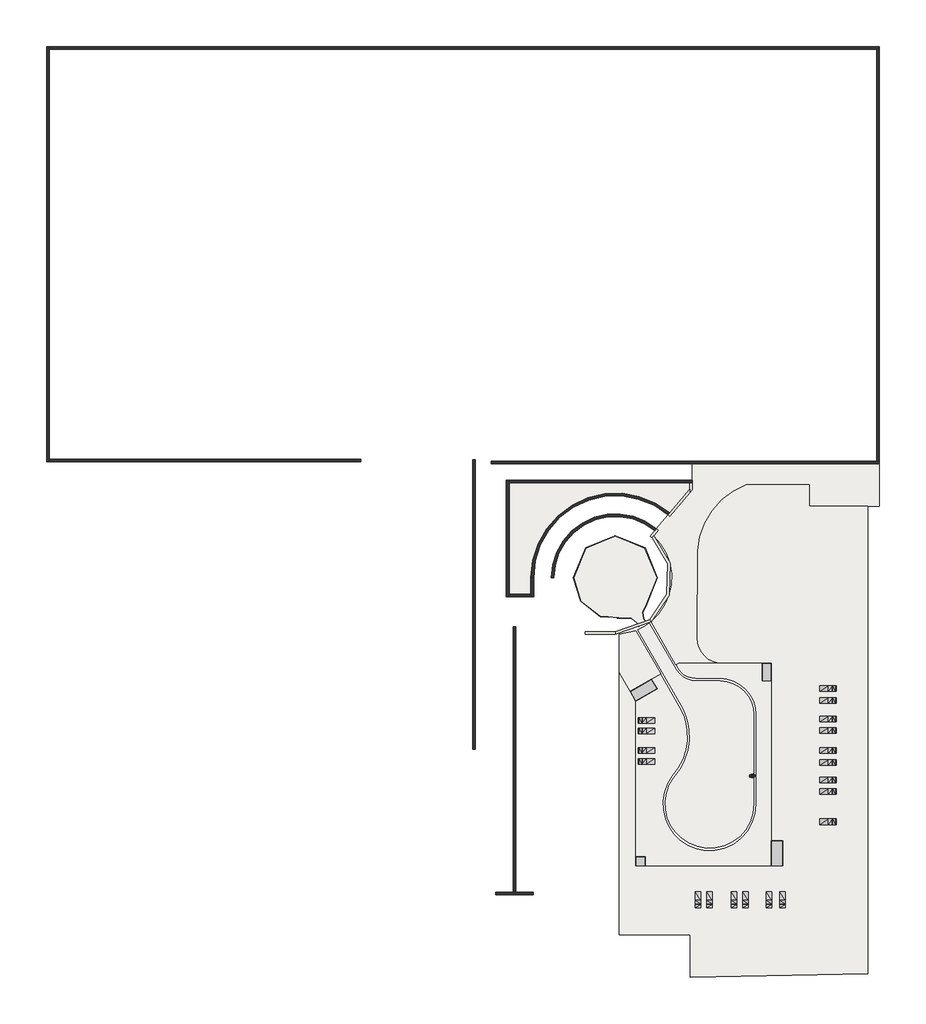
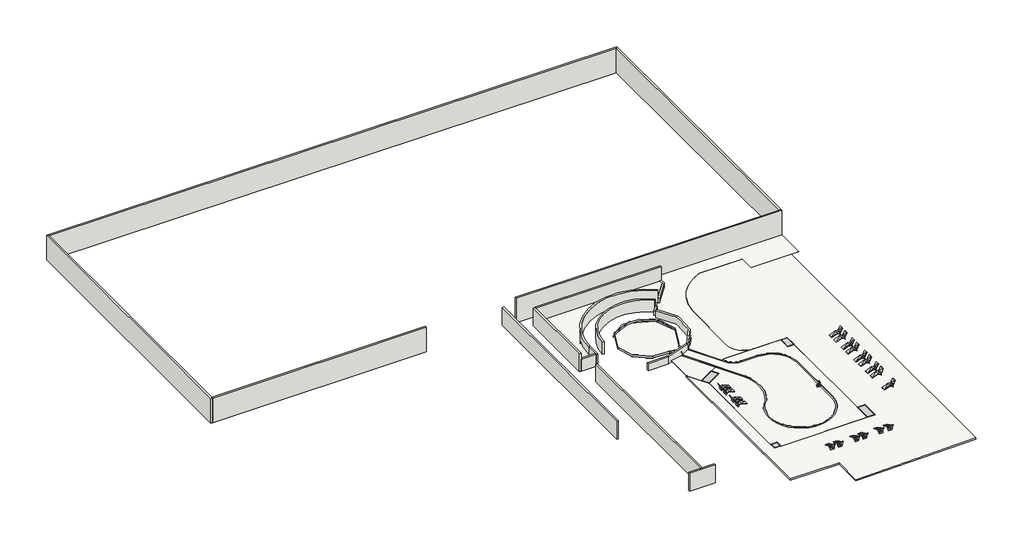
# One storey, incomplete: 36 walls, 20 geographic elements, 8 slabs, 4 proxies.
"""IFC4 building model written with IfcOpenShell, lengths in millimetres."""

from ifc_helpers import new_model, si_unit, point, frame, frame_2d, origin, place, context, project, spatial, polyline, circle_curve, trimmed, segment, composite_curve, outline, extrude, faceted_brep, transform, mapped, element, save
from ifc_brep_helpers import plane_surface, cylinder_surface, revolved_surface, advanced_brep
from components import generic_models_048bb886, generic_models_6c24c604, generic_models_903727d3, generic_models_c83b035a, geographic_element_292c5166, geographic_element_5d30c309

model = new_model("IFC4")

# Units and contexts
model_context = context("Model", 3, world=origin())
ifc_project = project(units=[si_unit("LENGTHUNIT", "METRE", prefix="MILLI")], contexts=[model_context])

# Site, building, storey
site = spatial("IfcSite", under=ifc_project)
building = spatial("IfcBuilding", under=site)
storey = spatial("IfcBuildingStorey", under=building, Name="8_NPlaya PTo-Fondo PIn -2.80", Elevation=-2800.0)

# Proxies
placement = place(None, origin())
generic_models_shape = generic_models_048bb886(model_context)
element("IfcBuildingElementProxy", 1, Name="PLATO DE DUCHA : Plato de Ducha 135x300 cm", ObjectType="PLATO DE DUCHA : Plato de Ducha 135x300 cm", at=placement, inside=storey, context=model_context, shape_type="MappedRepresentation", body=[
    mapped(generic_models_shape, transform((43596.7250348, -31456.534252, -2800.0), x_axis=(0.0, 1.0, 0.0), y_axis=(-1.0, 0.0, 0.0), z_axis=(0.0, 0.0, 1.0))),
])
generic_models_2_shape = generic_models_6c24c604(model_context)
element("IfcBuildingElementProxy", 2, Name="PLATO DE DUCHA : Plato de Ducha 110x110 cm", ObjectType="PLATO DE DUCHA : Plato de Ducha 110x110 cm", at=placement, inside=storey, context=model_context, shape_type="MappedRepresentation", body=[
    mapped(generic_models_2_shape, transform((27271.7250341, -32406.534252, -2800.0), x_axis=(1.0, 0.0, 0.0), y_axis=(0.0, 1.0, 0.0), z_axis=(0.0, 0.0, 1.0))),
])
generic_models_3_shape = generic_models_903727d3(model_context)
element("IfcBuildingElementProxy", 3, Name="PLATO DE DUCHA : Plato de Ducha 135x295 cm", ObjectType="PLATO DE DUCHA : Plato de Ducha 135x295 cm", at=placement, inside=storey, context=model_context, shape_type="MappedRepresentation", body=[
    mapped(generic_models_3_shape, transform((27651.3033222, -11948.4354948, -2800.0), x_axis=(0.8665392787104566, 0.4991088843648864, 0.0), y_axis=(-0.4991088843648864, 0.8665392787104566, 0.0), z_axis=(0.0, 0.0, 1.0))),
])
generic_models_4_shape = generic_models_c83b035a(model_context)
element("IfcBuildingElementProxy", 4, Name="PLATO DE DUCHA : Plato de Ducha 110x210 cm", ObjectType="PLATO DE DUCHA : Plato de Ducha 110x210 cm", at=placement, inside=storey, context=model_context, shape_type="MappedRepresentation", body=[
    mapped(generic_models_4_shape, transform((42371.7250348, -9806.5342519, -2800.0), x_axis=(0.0, 1.0, 0.0), y_axis=(-1.0, 0.0, 0.0), z_axis=(0.0, 0.0, 1.0))),
])

# Geographic elements
geographic_element_shape = geographic_element_292c5166(model_context)
element("IfcGeographicElement", 5, ObjectType="Enscape AssetDefinition - Tumbona 17 : Enscape AssetDefinition - Tumbona 17", at=placement, inside=storey, context=model_context, shape_type="MappedRepresentation", body=[
    mapped(geographic_element_shape, transform((28042.5568567, -15574.9374647, -2800.0), x_axis=(0.0, 1.0, 0.0), y_axis=(-1.0, 0.0, 0.0), z_axis=(0.0, 0.0, 1.0))),
])
element("IfcGeographicElement", 6, ObjectType="Enscape AssetDefinition - Tumbona 17 : Enscape AssetDefinition - Tumbona 17", at=placement, inside=storey, context=model_context, shape_type="MappedRepresentation", body=[
    mapped(geographic_element_shape, transform((28042.5568567, -16838.9374647, -2800.0), x_axis=(0.0, 1.0, 0.0), y_axis=(-1.0, 0.0, 0.0), z_axis=(0.0, 0.0, 1.0))),
])
element("IfcGeographicElement", 7, ObjectType="Enscape AssetDefinition - Tumbona 17 : Enscape AssetDefinition - Tumbona 17", at=placement, inside=storey, context=model_context, shape_type="MappedRepresentation", body=[
    mapped(geographic_element_shape, transform((28042.5568567, -19182.9374647, -2800.0), x_axis=(0.0, 1.0, 0.0), y_axis=(-1.0, 0.0, 0.0), z_axis=(0.0, 0.0, 1.0))),
])
element("IfcGeographicElement", 8, ObjectType="Enscape AssetDefinition - Tumbona 17 : Enscape AssetDefinition - Tumbona 17", at=placement, inside=storey, context=model_context, shape_type="MappedRepresentation", body=[
    mapped(geographic_element_shape, transform((49630.7250342, -27677.3361018, -2800.0), x_axis=(0.0, -1.0, 0.0), y_axis=(1.0, 0.0, 0.0), z_axis=(0.0, 0.0, 1.0))),
])
element("IfcGeographicElement", 9, ObjectType="Enscape AssetDefinition - Tumbona 17 : Enscape AssetDefinition - Tumbona 17", at=placement, inside=storey, context=model_context, shape_type="MappedRepresentation", body=[
    mapped(geographic_element_shape, transform((44230.7250342, -36956.5507169, -2800.0), x_axis=(-1.0, 0.0, 0.0), y_axis=(0.0, -1.0, 0.0), z_axis=(0.0, 0.0, 1.0))),
])
element("IfcGeographicElement", 10, ObjectType="Enscape AssetDefinition - Tumbona 17 : Enscape AssetDefinition - Tumbona 17", at=placement, inside=storey, context=model_context, shape_type="MappedRepresentation", body=[
    mapped(geographic_element_shape, transform((49630.7250342, -24077.3361018, -2800.0), x_axis=(0.0, -1.0, 0.0), y_axis=(1.0, 0.0, 0.0), z_axis=(0.0, 0.0, 1.0))),
])
element("IfcGeographicElement", 11, ObjectType="Enscape AssetDefinition - Tumbona 17 : Enscape AssetDefinition - Tumbona 17", at=placement, inside=storey, context=model_context, shape_type="MappedRepresentation", body=[
    mapped(geographic_element_shape, transform((49630.7250342, -22677.3361018, -2800.0), x_axis=(0.0, -1.0, 0.0), y_axis=(1.0, 0.0, 0.0), z_axis=(0.0, 0.0, 1.0))),
])
element("IfcGeographicElement", 12, ObjectType="Enscape AssetDefinition - Tumbona 17 : Enscape AssetDefinition - Tumbona 17", at=placement, inside=storey, context=model_context, shape_type="MappedRepresentation", body=[
    mapped(geographic_element_shape, transform((49630.7250342, -20577.3361018, -2800.0), x_axis=(0.0, -1.0, 0.0), y_axis=(1.0, 0.0, 0.0), z_axis=(0.0, 0.0, 1.0))),
])
element("IfcGeographicElement", 13, ObjectType="Enscape AssetDefinition - Tumbona 17 : Enscape AssetDefinition - Tumbona 17", at=placement, inside=storey, context=model_context, shape_type="MappedRepresentation", body=[
    mapped(geographic_element_shape, transform((49630.7250342, -19177.3361018, -2800.0), x_axis=(0.0, -1.0, 0.0), y_axis=(1.0, 0.0, 0.0), z_axis=(0.0, 0.0, 1.0))),
])
element("IfcGeographicElement", 14, ObjectType="Enscape AssetDefinition - Tumbona 17 : Enscape AssetDefinition - Tumbona 17", at=placement, inside=storey, context=model_context, shape_type="MappedRepresentation", body=[
    mapped(geographic_element_shape, transform((49630.7250342, -16777.3361018, -2800.0), x_axis=(0.0, -1.0, 0.0), y_axis=(1.0, 0.0, 0.0), z_axis=(0.0, 0.0, 1.0))),
])
element("IfcGeographicElement", 15, ObjectType="Enscape AssetDefinition - Tumbona 17 : Enscape AssetDefinition - Tumbona 17", at=placement, inside=storey, context=model_context, shape_type="MappedRepresentation", body=[
    mapped(geographic_element_shape, transform((49630.7250342, -15377.3361018, -2800.0), x_axis=(0.0, -1.0, 0.0), y_axis=(1.0, 0.0, 0.0), z_axis=(0.0, 0.0, 1.0))),
])
element("IfcGeographicElement", 16, ObjectType="Enscape AssetDefinition - Tumbona 17 : Enscape AssetDefinition - Tumbona 17", at=placement, inside=storey, context=model_context, shape_type="MappedRepresentation", body=[
    mapped(geographic_element_shape, transform((49630.7250342, -13177.3361018, -2800.0), x_axis=(0.0, -1.0, 0.0), y_axis=(1.0, 0.0, 0.0), z_axis=(0.0, 0.0, 1.0))),
])
element("IfcGeographicElement", 17, ObjectType="Enscape AssetDefinition - Tumbona 17 : Enscape AssetDefinition - Tumbona 17", at=placement, inside=storey, context=model_context, shape_type="MappedRepresentation", body=[
    mapped(geographic_element_shape, transform((49630.7250342, -11777.3361018, -2800.0), x_axis=(0.0, -1.0, 0.0), y_axis=(1.0, 0.0, 0.0), z_axis=(0.0, 0.0, 1.0))),
])
element("IfcGeographicElement", 18, ObjectType="Enscape AssetDefinition - Tumbona 17 : Enscape AssetDefinition - Tumbona 17", at=placement, inside=storey, context=model_context, shape_type="MappedRepresentation", body=[
    mapped(geographic_element_shape, transform((42630.7250342, -36956.5507169, -2800.0), x_axis=(-1.0, 0.0, 0.0), y_axis=(0.0, -1.0, 0.0), z_axis=(0.0, 0.0, 1.0))),
])
element("IfcGeographicElement", 19, ObjectType="Enscape AssetDefinition - Tumbona 17 : Enscape AssetDefinition - Tumbona 17", at=placement, inside=storey, context=model_context, shape_type="MappedRepresentation", body=[
    mapped(geographic_element_shape, transform((39830.7250342, -36956.5507169, -2800.0), x_axis=(-1.0, 0.0, 0.0), y_axis=(0.0, -1.0, 0.0), z_axis=(0.0, 0.0, 1.0))),
])
element("IfcGeographicElement", 20, ObjectType="Enscape AssetDefinition - Tumbona 17 : Enscape AssetDefinition - Tumbona 17", at=placement, inside=storey, context=model_context, shape_type="MappedRepresentation", body=[
    mapped(geographic_element_shape, transform((38430.7250342, -36956.5507169, -2800.0), x_axis=(-1.0, 0.0, 0.0), y_axis=(0.0, -1.0, 0.0), z_axis=(0.0, 0.0, 1.0))),
])
element("IfcGeographicElement", 21, ObjectType="Enscape AssetDefinition - Tumbona 17 : Enscape AssetDefinition - Tumbona 17", at=placement, inside=storey, context=model_context, shape_type="MappedRepresentation", body=[
    mapped(geographic_element_shape, transform((35530.7250342, -36956.5507169, -2800.0), x_axis=(-1.0, 0.0, 0.0), y_axis=(0.0, -1.0, 0.0), z_axis=(0.0, 0.0, 1.0))),
])
element("IfcGeographicElement", 22, ObjectType="Enscape AssetDefinition - Tumbona 17 : Enscape AssetDefinition - Tumbona 17", at=placement, inside=storey, context=model_context, shape_type="MappedRepresentation", body=[
    mapped(geographic_element_shape, transform((34130.7250342, -36956.5507169, -2800.0), x_axis=(-1.0, 0.0, 0.0), y_axis=(0.0, -1.0, 0.0), z_axis=(0.0, 0.0, 1.0))),
])
element("IfcGeographicElement", 23, ObjectType="Enscape AssetDefinition - Tumbona 17 : Enscape AssetDefinition - Tumbona 17", at=placement, inside=storey, context=model_context, shape_type="MappedRepresentation", body=[
    mapped(geographic_element_shape, transform((28042.5568567, -20482.9374647, -2800.0), x_axis=(0.0, 1.0, 0.0), y_axis=(-1.0, 0.0, 0.0), z_axis=(0.0, 0.0, 1.0))),
])
geographic_element_2_shape = geographic_element_5d30c309(model_context)
element("IfcGeographicElement", 24, ObjectType="Enscape AssetDefinition - Maja sentada : Enscape AssetDefinition - Maja sentada", at=placement, inside=storey, context=model_context, shape_type="MappedRepresentation", body=[
    mapped(geographic_element_2_shape, transform((40675.6572324, -22210.9374647, -3115.0), x_axis=(0.0, -1.0, 0.0), y_axis=(1.0, 0.0, 0.0), z_axis=(0.0, 0.0, 1.0))),
])

# Slabs
element("IfcSlab", 25, ObjectType="Pieza 244 G1_Patrón Recto_Aqua_Blanco_Anti-Slip", at=placement, inside=storey, context=model_context, shape_type="SweptSolid", body=[
    extrude(outline(composite_curve([segment(trimmed(circle_curve(frame_2d((24277.3611521, 1492.8308308)), 4969.9734114), [point((25454.6032691, -3335.7027673))], [point((19307.3877407, 1492.8308308))], False, "CARTESIAN"), True, "CONTINUOUS"), segment(trimmed(circle_curve(frame_2d((24277.3611521, 1492.8308308)), 4969.9734114), [point((19307.3877407, 1492.8308308))], [point((29247.3345635, 1492.8308308))], False, "CARTESIAN"), True, "CONTINUOUS"), segment(trimmed(circle_curve(frame_2d((24277.3611521, 1492.8308308)), 4969.9734114), [point((29247.3345635, 1492.8308308))], [point((27861.8401092, -1949.8637994))], False, "CARTESIAN"), True, "CONTINUOUS"), segment(trimmed(circle_curve(frame_2d((28736.9743092, -2826.668529)), 1238.8084606), [point((27861.8401092, -1949.8637994))], [point((27660.7416074, -3440.1581978))], True, "CARTESIAN"), True, "CONTINUOUS"), segment(polyline([(27660.7416074, -3440.1581978), (27896.7285522, -3848.9664165)]), True, "CONTINUOUS"), segment(trimmed(circle_curve(frame_2d((24277.5470116, 1492.6449713)), 6452.2311832), [point((27896.7285522, -3848.9664165))], [point((27081.5415385, -4318.4566398))], False, "CARTESIAN"), True, "CONTINUOUS"), segment(polyline([(27081.5415385, -4318.4566398), (26846.0130275, -3909.9192829)]), True, "CONTINUOUS"), segment(trimmed(circle_curve(frame_2d((25769.6967335, -4545.0875921)), 1249.7581949), [point((26846.0130275, -3909.9192829))], [point((25454.6032691, -3335.7027673))], True, "CARTESIAN"), True, "CONTINUOUS")], self_intersect=False)), frame((0.0, 0.0, -2809.0), z_axis=(0.0, 0.0, 1.0), x_axis=(1.0, 0.0, 0.0)), (0.0, 0.0, 1.0), 9.0),
])
element("IfcSlab", 26, ObjectType="Pieza 244 G1_Patrón Recto_Aqua_Blanco_Anti-Slip", at=placement, inside=storey, context=model_context, shape_type="SweptSolid", body=[
    extrude(outline(composite_curve([segment(polyline([(28081.6853529, -4169.3733794), (31257.847177, -9671.5466421)]), True, "CONTINUOUS"), segment(trimmed(circle_curve(frame_2d((33881.9276987, -8156.5342519)), 3030.0265886), [point((31257.847177, -9671.5466421))], [point((33881.9276987, -11186.5608404))], True, "CARTESIAN"), True, "CONTINUOUS"), segment(polyline([(33881.9276987, -11186.5608404), (35302.4568904, -11186.5608404), (35302.4568904, -11156.5342519), (35465.7047225, -11156.5342519)]), True, "CONTINUOUS"), segment(trimmed(circle_curve(frame_2d((35958.3421329, -14167.9787946)), 3051.4733904), [point((35465.7047225, -11156.5342519))], [point((32954.7507781, -14706.4291874))], True, "CARTESIAN"), True, "CONTINUOUS"), segment(trimmed(circle_curve(frame_2d((26211.8665208, -17385.9131955)), 7255.7647878), [point((32954.7507781, -14706.4291874))], [point((32898.1704815, -14568.2081007))], True, "CARTESIAN"), True, "CONTINUOUS"), segment(polyline([(32898.1704815, -14568.2081007), (32922.8423642, -14557.4723639), (32794.0815574, -14261.5661231)]), True, "CONTINUOUS"), segment(trimmed(circle_curve(frame_2d((26213.6229072, -17390.0811023)), 7286.2913764), [point((32794.0815574, -14261.5661231))], [point((32664.4221699, -14002.2748957))], True, "CARTESIAN"), True, "CONTINUOUS"), segment(polyline([(32664.4221699, -14002.2748957), (27266.3388278, -4638.9978594)]), True, "CONTINUOUS"), segment(trimmed(circle_curve(frame_2d((24277.5470116, 1492.6449713)), 6821.2843603), [point((27266.3388278, -4638.9978594))], [point((28081.6853529, -4169.3733794))], True, "CARTESIAN"), True, "CONTINUOUS")], self_intersect=False)), frame((0.0, 0.0, -3209.0), z_axis=(0.0, 0.0, 1.0), x_axis=(1.0, 0.0, 0.0)), (0.0, 0.0, 1.0), 9.0),
])
element("IfcSlab", 27, ObjectType="Pieza 240 G1_Patrón Recto_Aqua_Indubeige_Pastilla", at=placement, inside=storey, context=model_context, shape_type="SweptSolid", body=[
    extrude(outline(composite_curve([segment(polyline([(26721.7250352, -13262.8093503), (29264.8974358, -11794.5080782), (28589.8974353, -10625.3737839), (29632.8246646, -10023.2394666), (32104.3784059, -14310.2874706)]), True, "CONTINUOUS"), segment(trimmed(circle_curve(frame_2d((26213.6229072, -17390.0811023)), 6647.2647878), [point((32104.3784059, -14310.2874706))], [point((32485.6184581, -15188.2180346))], False, "CARTESIAN"), True, "CONTINUOUS"), segment(trimmed(circle_curve(frame_2d((26213.6229072, -17390.0811023)), 6647.2647878), [point((32485.6184581, -15188.2180346))], [point((32827.9602649, -16729.2706322))], False, "CARTESIAN"), True, "CONTINUOUS"), segment(trimmed(circle_curve(frame_2d((25819.8612532, -17471.9077255)), 7047.3372), [point((32827.9602649, -16729.2706322))], [point((31028.910954, -22218.5657947))], False, "CARTESIAN"), True, "CONTINUOUS"), segment(trimmed(circle_curve(frame_2d((35534.2460496, -25538.6398936)), 5596.5110869), [point((31028.910954, -22218.5657947))], [point((31263.8508438, -29155.9125033))], True, "CARTESIAN"), True, "CONTINUOUS"), segment(polyline([(31263.8508438, -29155.9125033), (31924.3239101, -29815.250525)]), True, "CONTINUOUS"), segment(trimmed(circle_curve(frame_2d((35534.2460496, -25538.6398936)), 5596.5110869), [point((31924.3239101, -29815.250525))], [point((41130.7250342, -25557.5956396))], True, "CARTESIAN"), True, "CONTINUOUS"), segment(polyline([(41130.7250342, -25557.5956396), (41130.7250342, -14902.9152252)]), True, "CONTINUOUS"), segment(trimmed(circle_curve(frame_2d((36724.8557766, -14953.4035105)), 4406.158529), [point((41130.7250342, -14902.9152252))], [point((36775.3439793, -10547.5342519))], True, "CARTESIAN"), True, "CONTINUOUS"), segment(polyline([(36775.3439793, -10547.5342519), (33881.9276987, -10547.5342519)]), True, "CONTINUOUS"), segment(trimmed(circle_curve(frame_2d((33881.9276987, -8156.5342519)), 2391.0), [point((33881.9276987, -10547.5342519))], [point((31811.2609668, -9352.0342666))], False, "CARTESIAN"), True, "CONTINUOUS"), segment(polyline([(31811.2609668, -9352.0342666), (31557.2922648, -8912.1475784), (31826.8224524, -8756.5342519), (41821.7250359, -8756.5342519), (41821.7250359, -10856.5342511), (42921.7250348, -10856.5342511), (42921.7250348, -32956.534252), (27821.7250341, -32956.534252), (27821.7250341, -31856.5342523), (26721.7250352, -31856.5342523), (26721.7250352, -13262.8093503)]), True, "CONTINUOUS")], self_intersect=False)), frame((0.0, 0.0, -2809.0), z_axis=(0.0, 0.0, 1.0), x_axis=(1.0, 0.0, 0.0)), (0.0, 0.0, 1.0), 9.0),
])
element("IfcSlab", 28, ObjectType="Pieza 240 G1_Patrón Recto_Aqua_Indubeige_Pastilla", at=placement, inside=storey, context=model_context, shape_type="SweptSolid", body=[
    extrude(outline(composite_curve([segment(polyline([(28861.3573186, 6491.4151753), (29408.4425541, 7143.7592419), (29178.5302552, 7336.5740931), (30570.5230854, 8996.3854071), (30798.0497367, 8799.4546653), (33457.9663779, 11969.4198775), (33457.9663779, 15115.988628), (55791.1728922, 15115.988628), (55791.1728922, 10010.0571702), (47421.7250346, 10010.0571702), (47421.7250346, 12568.4122884), (39932.0284584, 12568.4122884)]), True, "CONTINUOUS"), segment(trimmed(circle_curve(frame_2d((43114.2003128, 4109.6307978)), 9037.5440258), [point((39932.0284584, 12568.4122884))], [point((34094.2759786, 4673.6937586))], True, "CARTESIAN"), True, "CONTINUOUS"), segment(polyline([(34094.2759786, 4673.6937586), (34061.2814826, -5756.5342514)]), True, "CONTINUOUS"), segment(trimmed(circle_curve(frame_2d((37084.0522953, -5733.7634393)), 3022.8565788), [point((34061.2814826, -5756.5342514))], [point((37061.2814812, -8756.5342519))], True, "CARTESIAN"), True, "CONTINUOUS"), segment(polyline([(37061.2814812, -8756.5342519), (31826.8224524, -8756.5342519), (31513.247016, -8937.5771147), (28538.0534143, -3784.3907189)]), True, "CONTINUOUS"), segment(trimmed(circle_curve(frame_2d((24277.5470116, 1492.6449713)), 6782.2577717), [point((28538.0534143, -3784.3907189))], [point((28861.3573186, 6491.4151753))], True, "CARTESIAN"), True, "CONTINUOUS")], self_intersect=False)), frame((0.0, 0.0, -2809.0), z_axis=(0.0, 0.0, 1.0), x_axis=(1.0, 0.0, 0.0)), (0.0, 0.0, 1.0), 9.0),
])
element("IfcSlab", 29, ObjectType="Pieza 240 G1_Patrón Recto_Aqua_Indubeige_Pastilla", at=placement, inside=storey, context=model_context, shape_type="SweptSolid", body=[
    extrude(outline(composite_curve([segment(trimmed(circle_curve(frame_2d((24277.5470116, 1492.6449713)), 6782.2577717), [point((24723.2177259, -5274.954167))], [point((26703.7666898, -4840.7963173))], True, "CARTESIAN"), True, "CONTINUOUS"), segment(polyline([(26703.7666898, -4840.7963173), (29676.869922, -9997.8099254), (26036.2638467, -12099.7148252), (24723.2177259, -9820.0398403), (24723.2177259, -5274.954167)]), True, "CONTINUOUS")], self_intersect=False)), frame((0.0, 0.0, -2809.0), z_axis=(0.0, 0.0, 1.0), x_axis=(1.0, 0.0, 0.0)), (0.0, 0.0, 1.0), 9.0),
])
element("IfcSlab", 30, ObjectType="GENÉRICO_HIERBA", at=placement, inside=storey, context=model_context, shape_type="SweptSolid", body=[
    extrude(outline(composite_curve([segment(polyline([(47421.7250346, 12568.4122884), (47421.7250346, 10010.0571702), (54437.9707477, 10010.0571702), (54437.9707477, -45817.0495326), (33247.9866488, -46282.7525066), (33247.9866488, -41165.6888719), (24723.2177259, -41165.6888719), (24723.2177259, -9820.0398403), (26721.7250352, -13289.793909), (26721.7250352, -32956.534252), (44221.7250346, -32956.534252), (44221.7250346, -29956.534252), (42921.7250348, -29956.534252), (42921.7250348, -8756.5342519), (37061.2814812, -8756.5342519)]), True, "CONTINUOUS"), segment(trimmed(circle_curve(frame_2d((37084.0522953, -5733.7634393)), 3022.8565788), [point((37061.2814812, -8756.5342519))], [point((34061.2814826, -5756.5342514))], False, "CARTESIAN"), True, "CONTINUOUS"), segment(polyline([(34061.2814826, -5756.5342514), (34094.2759786, 4673.6937586)]), True, "CONTINUOUS"), segment(trimmed(circle_curve(frame_2d((43114.2003128, 4109.6307978)), 9037.5440258), [point((34094.2759786, 4673.6937586))], [point((39932.0284584, 12568.4122884))], False, "CARTESIAN"), True, "CONTINUOUS"), segment(polyline([(39932.0284584, 12568.4122884), (47421.7250346, 12568.4122884)]), True, "CONTINUOUS")], self_intersect=False)), frame((0.0, 0.0, -3031.0), z_axis=(0.0, 0.0, 1.0), x_axis=(1.0, 0.0, 0.0)), (0.0, 0.0, 1.0), 231.0),
])
element("IfcSlab", 31, ObjectType="GENÉRICO_HIERBA", at=placement, inside=storey, context=model_context, shape_type="SweptSolid", body=[
    extrude(outline(composite_curve([segment(polyline([(33157.9663779, 12830.057171), (33157.9663779, 12078.6109478), (30756.9706086, 9217.2156148)]), True, "CONTINUOUS"), segment(trimmed(circle_curve(frame_2d((24277.5470116, 1492.6449713)), 10082.2577717), [point((30756.9706086, 9217.2156148))], [point((14195.2892399, 1492.6449713))], True, "CARTESIAN"), True, "CONTINUOUS"), segment(polyline([(14195.2892399, 1492.6449713), (14195.2892399, -509.1476103), (11567.5679984, -509.1476103), (11567.5679984, 12830.057171), (33157.9663779, 12830.057171)]), True, "CONTINUOUS")], self_intersect=False)), frame((0.0, 0.0, -2231.0), z_axis=(0.0, 0.0, 1.0), x_axis=(1.0, 0.0, 0.0)), (0.0, 0.0, 1.0), 231.0),
])
element("IfcSlab", 32, ObjectType="GENÉRICO_AGUA", at=placement, inside=storey, context=model_context, shape_type="SweptSolid", body=[
    extrude(outline(composite_curve([segment(polyline([(28344.3485475, -3935.0751532), (31556.6887947, -9499.0115811)]), True, "CONTINUOUS"), segment(trimmed(circle_curve(frame_2d((33881.9276987, -8156.5342519)), 2684.9546253), [point((31556.6887947, -9499.0115811))], [point((33881.9276987, -10841.4888772))], True, "CARTESIAN"), True, "CONTINUOUS"), segment(polyline([(33881.9276987, -10841.4888772), (36773.6307075, -10841.4888772)]), True, "CONTINUOUS"), segment(trimmed(circle_curve(frame_2d((36724.8557766, -14953.4035105)), 4112.2039036), [point((36773.6307075, -10841.4888772))], [point((40836.7704089, -14904.6284999))], False, "CARTESIAN"), True, "CONTINUOUS"), segment(polyline([(40836.7704089, -14904.6284999), (40836.7704089, -25557.0911019)]), True, "CONTINUOUS"), segment(trimmed(circle_curve(frame_2d((35534.2460496, -25538.6398936)), 5302.5564616), [point((40836.7704089, -25557.0911019))], [point((32123.1970936, -29598.4243765))], False, "CARTESIAN"), True, "CONTINUOUS"), segment(polyline([(32123.1970936, -29598.4243765), (31480.3346079, -28956.6666709)]), True, "CONTINUOUS"), segment(trimmed(circle_curve(frame_2d((35534.2460496, -25538.6398936)), 5302.5564616), [point((31480.3346079, -28956.6666709))], [point((31256.7154552, -22404.9779714))], False, "CARTESIAN"), True, "CONTINUOUS"), segment(trimmed(circle_curve(frame_2d((25819.8612532, -17471.9077255)), 7341.2918253), [point((31256.7154552, -22404.9779714))], [point((33120.3710152, -16699.1704611))], True, "CARTESIAN"), True, "CONTINUOUS"), segment(trimmed(circle_curve(frame_2d((26213.6229072, -17390.0811023)), 6941.2194132), [point((33120.3710152, -16699.1704611))], [point((32762.9779678, -15090.8474838))], True, "CARTESIAN"), True, "CONTINUOUS"), segment(trimmed(circle_curve(frame_2d((26213.6229072, -17390.0811023)), 6941.2194132), [point((32762.9779678, -15090.8474838))], [point((32362.0373929, -14168.6642937))], True, "CARTESIAN"), True, "CONTINUOUS"), segment(polyline([(32362.0373929, -14168.6642937), (26931.3609118, -4748.8526267)]), True, "CONTINUOUS"), segment(trimmed(circle_curve(frame_2d((24277.5470116, 1492.6449713)), 6782.2577717), [point((26931.3609118, -4748.8526267))], [point((28344.3485475, -3935.0751532))], True, "CARTESIAN"), True, "CONTINUOUS")], self_intersect=False)), frame((0.0, 0.0, -2801.0), z_axis=(0.0, 0.0, 1.0), x_axis=(1.0, 0.0, 0.0)), (0.0, 0.0, 1.0), 1.0),
])

# Walls
element("IfcWall", 33, ObjectType="Pieza 244 G1_Patrón Recto_Aqua_Blanco_Liso 90º Muro Curvo", at=placement, inside=storey, context=model_context, shape_type="SweptSolid", body=[
    extrude(outline(composite_curve([segment(polyline([(27061.2827719, -4361.4545356), (26812.302602, -3929.5845251), (26820.0764899, -3925.0492394), (27069.4329787, -4357.5719961)]), True, "CONTINUOUS"), segment(trimmed(circle_curve(frame_2d((24277.5470116, 1492.6449713)), 6482.2577717), [point((27069.4329787, -4357.5719961))], [point((27061.2827719, -4361.4545356))], False, "CARTESIAN"), True, "CONTINUOUS")], self_intersect=False)), frame((0.0, 0.0, -2770.0), z_axis=(0.0, 0.0, 1.0), x_axis=(1.0, 0.0, 0.0)), (0.0, 0.0, 1.0), 316.0),
])
element("IfcWall", 34, ObjectType="Pieza 244 G1_Patrón Recto_Aqua_Blanco_Liso 90º Muro Curvo", at=placement, inside=storey, context=model_context, shape_type="SweptSolid", body=[
    extrude(outline(composite_curve([segment(polyline([(27694.5944364, -3420.7398557), (27944.1189288, -3852.9996292)]), True, "CONTINUOUS"), segment(trimmed(circle_curve(frame_2d((24277.5470116, 1492.6449713)), 6482.2577717), [point((27944.1189288, -3852.9996292))], [point((27936.6714127, -3858.1002512))], False, "CARTESIAN"), True, "CONTINUOUS"), segment(polyline([(27936.6714127, -3858.1002512), (27686.7874913, -3425.2178266), (27694.5944364, -3420.7398557)]), True, "CONTINUOUS")], self_intersect=False)), frame((0.0, 0.0, -2770.0), z_axis=(0.0, 0.0, 1.0), x_axis=(1.0, 0.0, 0.0)), (0.0, 0.0, 1.0), 316.0),
])
element("IfcWall", 35, ObjectType="Pieza 244 G1_Patrón Recto_Aqua_Blanco_Liso 90º Muro Curvo", at=placement, inside=storey, context=model_context, shape_type="SweptSolid", body=[
    extrude(outline(composite_curve([segment(polyline([(19277.3611521, 1492.8308308), (19268.3611521, 1492.8308308)]), True, "CONTINUOUS"), segment(trimmed(circle_curve(frame_2d((24277.3611521, 1492.8308308)), 5009.0), [point((19268.3611521, 1492.8308308))], [point((29286.3611521, 1492.8308308))], False, "CARTESIAN"), True, "CONTINUOUS"), segment(polyline([(29286.3611521, 1492.8308308), (29277.3611521, 1492.8308308)]), True, "CONTINUOUS"), segment(trimmed(circle_curve(frame_2d((24277.3611521, 1492.8308308)), 5000.0), [point((29277.3611521, 1492.8308308))], [point((19277.3611521, 1492.8308308))], True, "CARTESIAN"), True, "CONTINUOUS")], self_intersect=False)), frame((0.0, 0.0, -2770.0), z_axis=(0.0, 0.0, 1.0), x_axis=(1.0, 0.0, 0.0)), (0.0, 0.0, 1.0), 316.0),
])
element("IfcWall", 36, ObjectType="Pieza 244 G1_Patrón Recto_Aqua_Blanco_Liso 90º Muro Curvo", at=placement, inside=storey, context=model_context, shape_type="SweptSolid", body=[
    extrude(outline(composite_curve([segment(polyline([(25461.9468801, -3364.8184621), (25464.1486982, -3373.5452665)]), True, "CONTINUOUS"), segment(trimmed(circle_curve(frame_2d((24277.3611521, 1492.8308308)), 5009.0), [point((25464.1486982, -3373.5452665))], [point((19268.3611521, 1492.8308308))], False, "CARTESIAN"), True, "CONTINUOUS"), segment(polyline([(19268.3611521, 1492.8308308), (19277.3611521, 1492.8308308)]), True, "CONTINUOUS"), segment(trimmed(circle_curve(frame_2d((24277.3611521, 1492.8308308)), 5000.0), [point((19277.3611521, 1492.8308308))], [point((25461.9468801, -3364.8184621))], True, "CARTESIAN"), True, "CONTINUOUS")], self_intersect=False)), frame((0.0, 0.0, -2770.0), z_axis=(0.0, 0.0, 1.0), x_axis=(1.0, 0.0, 0.0)), (0.0, 0.0, 1.0), 316.0),
])
element("IfcWall", 37, ObjectType="Pieza 244 G1_Patrón Recto_Aqua_Blanco_Liso 90º Muro Curvo", at=placement, inside=storey, context=model_context, shape_type="SweptSolid", body=[
    extrude(outline(composite_curve([segment(polyline([(29277.3611521, 1492.8308308), (29286.3611521, 1492.8308308)]), True, "CONTINUOUS"), segment(trimmed(circle_curve(frame_2d((24277.3611521, 1492.8308308)), 5009.0), [point((29286.3611521, 1492.8308308))], [point((27889.6986958, -1977.1977671))], False, "CARTESIAN"), True, "CONTINUOUS"), segment(polyline([(27889.6986958, -1977.1977671), (27883.2746827, -1970.8936978)]), True, "CONTINUOUS"), segment(trimmed(circle_curve(frame_2d((24277.3611521, 1492.8308308)), 5000.0), [point((27883.2746827, -1970.8936978))], [point((29277.3611521, 1492.8308308))], True, "CARTESIAN"), True, "CONTINUOUS")], self_intersect=False)), frame((0.0, 0.0, -2770.0), z_axis=(0.0, 0.0, 1.0), x_axis=(1.0, 0.0, 0.0)), (0.0, 0.0, 1.0), 316.0),
])
element("IfcWall", 38, ObjectType="Pieza 244 G1_Patrón Recto_Aqua_Blanco_Liso 90º Muro Curvo", at=placement, inside=storey, context=model_context, shape_type="SweptSolid", body=[
    extrude(outline(composite_curve([segment(polyline([(27883.2746827, -1970.8936978), (27889.6986958, -1977.1977671)]), True, "CONTINUOUS"), segment(trimmed(circle_curve(frame_2d((28736.9743092, -2826.668529)), 1199.781872), [point((27889.6986958, -1977.1977671))], [point((27694.5944364, -3420.7398557))], True, "CARTESIAN"), True, "CONTINUOUS"), segment(polyline([(27694.5944364, -3420.7398557), (27686.7874913, -3425.2178266)]), True, "CONTINUOUS"), segment(trimmed(circle_curve(frame_2d((28736.9743092, -2826.668529)), 1208.781872), [point((27686.7874913, -3425.2178266))], [point((27883.2746827, -1970.8936978))], False, "CARTESIAN"), True, "CONTINUOUS")], self_intersect=False)), frame((0.0, 0.0, -2770.0), z_axis=(0.0, 0.0, 1.0), x_axis=(1.0, 0.0, 0.0)), (0.0, 0.0, 1.0), 316.0),
])
element("IfcWall", 39, ObjectType="Pieza 244 G1_Patrón Recto_Aqua_Blanco_Liso 90º Muro Curvo", at=placement, inside=storey, context=model_context, shape_type="SweptSolid", body=[
    extrude(outline(composite_curve([segment(polyline([(26820.0764899, -3925.0492394), (26812.302602, -3929.5845251)]), True, "CONTINUOUS"), segment(trimmed(circle_curve(frame_2d((25769.6967335, -4545.0875921)), 1210.7316063), [point((26812.302602, -3929.5845251))], [point((25464.1486982, -3373.5452665))], True, "CARTESIAN"), True, "CONTINUOUS"), segment(polyline([(25464.1486982, -3373.5452665), (25461.9468801, -3364.8184621)]), True, "CONTINUOUS"), segment(trimmed(circle_curve(frame_2d((25769.6967335, -4545.0875921)), 1219.7316063), [point((25461.9468801, -3364.8184621))], [point((26820.0764899, -3925.0492394))], False, "CARTESIAN"), True, "CONTINUOUS")], self_intersect=False)), frame((0.0, 0.0, -2770.0), z_axis=(0.0, 0.0, 1.0), x_axis=(1.0, 0.0, 0.0)), (0.0, 0.0, 1.0), 316.0),
])
element("IfcWall", 40, ObjectType="GENÉRICO_MURO BASE 30 cm", at=placement, inside=storey, context=model_context, shape_type="SweptSolid", body=[
    extrude(outline(polyline([(24277.5470116, -5289.6128004), (20653.985042, -5289.6128004), (20653.985042, -4989.6128004), (24277.5470116, -4989.6128004), (24277.5470116, -5289.6128004)])), frame((0.0, 0.0, -3200.0), z_axis=(0.0, 0.0, 1.0), x_axis=(1.0, 0.0, 0.0)), (0.0, 0.0, 1.0), 1300.0),
])
element("IfcWall", 41, ObjectType="GENÉRICO_MURO BASE 30 cm", at=placement, inside=storey, context=model_context, shape_type="SweptSolid", body=[
    extrude(outline(composite_curve([segment(polyline([(28386.507363, -3520.9476178), (28576.6707519, -3752.9775416)]), True, "CONTINUOUS"), segment(trimmed(circle_curve(frame_2d((24277.5470116, 1492.6449713)), 6782.2577717), [point((28576.6707519, -3752.9775416))], [point((24277.5470116, -5289.6128004))], False, "CARTESIAN"), True, "CONTINUOUS"), segment(polyline([(24277.5470116, -5289.6128004), (24277.5470116, -4989.6128004)]), True, "CONTINUOUS"), segment(trimmed(circle_curve(frame_2d((24277.5470116, 1492.6449713)), 6482.2577717), [point((24277.5470116, -4989.6128004))], [point((28386.507363, -3520.9476178))], True, "CARTESIAN"), True, "CONTINUOUS")], self_intersect=False)), frame((0.0, 0.0, -3200.0), z_axis=(0.0, 0.0, 1.0), x_axis=(1.0, 0.0, 0.0)), (0.0, 0.0, 1.0), 1300.0),
])
element("IfcWall", 42, ObjectType="GENÉRICO_MURO BASE 30 cm", at=placement, inside=storey, context=model_context, shape_type="SweptSolid", body=[
    extrude(outline(composite_curve([segment(polyline([(28668.384636, 6261.3146784), (28861.3573186, 6491.4151753)]), True, "CONTINUOUS"), segment(trimmed(circle_curve(frame_2d((24277.5470116, 1492.6449713)), 6782.2577717), [point((28861.3573186, 6491.4151753))], [point((28576.6707519, -3752.9775416))], False, "CARTESIAN"), True, "CONTINUOUS"), segment(polyline([(28576.6707519, -3752.9775416), (28386.507363, -3520.9476178)]), True, "CONTINUOUS"), segment(trimmed(circle_curve(frame_2d((24277.5470116, 1492.6449713)), 6482.2577717), [point((28386.507363, -3520.9476178))], [point((28668.384636, 6261.3146784))], True, "CARTESIAN"), True, "CONTINUOUS")], self_intersect=False)), frame((0.0, 0.0, -3200.0), z_axis=(0.0, 0.0, 1.0), x_axis=(1.0, 0.0, 0.0)), (0.0, 0.0, 1.0), 1300.0),
])
element("IfcWall", 43, ObjectType="Pieza 244 G1_Patrón Recto_Aqua_Blanco_Liso 90º Muro Curvo", at=placement, inside=storey, context=model_context, shape_type="SweptSolid", body=[
    extrude(outline(polyline([(32630.316321, -14021.2542647), (27211.9067776, -4622.7202862), (27219.7038199, -4618.225163), (32638.1133632, -14016.7591415), (32630.316321, -14021.2542647)])), frame((0.0, 0.0, -3170.0), z_axis=(0.0, 0.0, 1.0), x_axis=(1.0, 0.0, 0.0)), (0.0, 0.0, 1.0), 316.0),
])
element("IfcWall", 44, ObjectType="Pieza 244 G1_Patrón Recto_Aqua_Blanco_Liso 90º Muro Curvo", at=placement, inside=storey, context=model_context, shape_type="SweptSolid", body=[
    extrude(outline(polyline([(28094.7355402, -4113.917913), (31291.6465314, -9652.0356643), (31283.8519842, -9656.5351124), (28086.940993, -4118.4173611), (28094.7355402, -4113.917913)])), frame((0.0, 0.0, -3170.0), z_axis=(0.0, 0.0, 1.0), x_axis=(1.0, 0.0, 0.0)), (0.0, 0.0, 1.0), 316.0),
])
element("IfcWall", 45, ObjectType="Pieza 244 G1_Patrón Recto_Aqua_Blanco_Liso 90º Muro Curvo", at=placement, inside=storey, context=model_context, shape_type="SweptSolid", body=[
    extrude(outline(composite_curve([segment(polyline([(31283.8514981, -9656.5342705), (31291.6457267, -9652.0342704)]), True, "CONTINUOUS"), segment(trimmed(circle_curve(frame_2d((33881.9276987, -8156.5342519)), 2991.0), [point((31291.6457267, -9652.0342704))], [point((33881.9276987, -11147.5342519))], True, "CARTESIAN"), True, "CONTINUOUS"), segment(polyline([(33881.9276987, -11147.5342519), (33881.9276987, -11156.5342519)]), True, "CONTINUOUS"), segment(trimmed(circle_curve(frame_2d((33881.9276987, -8156.5342519)), 3000.0), [point((33881.9276987, -11156.5342519))], [point((31283.8514981, -9656.5342705))], False, "CARTESIAN"), True, "CONTINUOUS")], self_intersect=False)), frame((0.0, 0.0, -3170.0), z_axis=(0.0, 0.0, 1.0), x_axis=(1.0, 0.0, 0.0)), (0.0, 0.0, 1.0), 316.0),
])
element("IfcWall", 46, ObjectType="GENÉRICO_AUX CORTES 1cm", at=placement, inside=storey, context=model_context, shape_type="SweptSolid", body=[
    extrude(outline(polyline([(35302.4568904, -11193.7967202), (35302.4568904, -11131.9144646), (35312.4568904, -11131.9144646), (35312.4568904, -11193.7967202), (35302.4568904, -11193.7967202)])), frame((0.0, 0.0, -3200.0), z_axis=(0.0, 0.0, 1.0), x_axis=(1.0, 0.0, 0.0)), (0.0, 0.0, 1.0), 50.0),
])
element("IfcWall", 47, ObjectType="GENÉRICO_AUX CORTES 1cm", at=placement, inside=storey, context=model_context, shape_type="SweptSolid", body=[
    extrude(outline(polyline([(32883.5713722, -14565.5998537), (32929.4188721, -14545.6497471), (32933.4088934, -14554.819247), (32887.5613935, -14574.7693537), (32883.5713722, -14565.5998537)])), frame((0.0, 0.0, -3200.0), z_axis=(0.0, 0.0, 1.0), x_axis=(1.0, 0.0, 0.0)), (0.0, 0.0, 1.0), 50.0),
])
element("IfcWall", 48, ObjectType="Pieza 244 G1_Patrón Recto_Aqua_Blanco_Liso 90º Muro Curvo", at=placement, inside=storey, context=model_context, shape_type="SweptSolid", body=[
    extrude(outline(composite_curve([segment(polyline([(32630.0777053, -14021.03242), (32638.04892, -14016.8539352)]), True, "CONTINUOUS"), segment(trimmed(circle_curve(frame_2d((26207.2583236, -17387.8534323)), 7260.7647878), [point((32638.04892, -14016.8539352))], [point((32899.0654402, -14570.3327457))], False, "CARTESIAN"), True, "CONTINUOUS"), segment(polyline([(32899.0654402, -14570.3327457), (32890.7706853, -14573.825172)]), True, "CONTINUOUS"), segment(trimmed(circle_curve(frame_2d((26207.2583236, -17387.8534323)), 7251.7647878), [point((32890.7706853, -14573.825172))], [point((32630.0777053, -14021.03242))], True, "CARTESIAN"), True, "CONTINUOUS")], self_intersect=False)), frame((0.0, 0.0, -3170.0), z_axis=(0.0, 0.0, 1.0), x_axis=(1.0, 0.0, 0.0)), (0.0, 0.0, 1.0), 316.0),
])
element("IfcWall", 49, ObjectType="Pieza 244 G1_Patrón Recto_Aqua_Blanco_Liso 90º Muro Curvo", at=placement, inside=storey, context=model_context, shape_type="AdvancedBrep", body=[
    advanced_brep(
    [(32890.7706853, -14573.825172, -2854.0), (33049.2409875, -14984.6822004, -2854.0), (33057.732552, -14981.7000312, -2854.0), (32899.0654402, -14570.3327457, -2854.0), (32890.7706853, -14573.825172, -3244.0212387), (32899.0654402, -14570.3327457, -3244.0212387), (33057.732552, -14981.7000312, -3244.0212387), (33049.2409875, -14984.6822004, -3244.0212387), (32890.7706853, -14573.825172, -3170.0), (32899.0654402, -14570.3327457, -3170.0)],
    [
        (0, 1, circle_curve(frame((26211.8665208, -17385.9131955, -2854.0), z_axis=(0.0, 0.0, -1.0), x_axis=(1.0, 0.0, 0.0)), 7246.7647878)),
        (1, 2),
        (2, 3, circle_curve(frame((26211.8665208, -17385.9131955, -2854.0), z_axis=(0.0, 0.0, 1.0), x_axis=(1.0, 0.0, 0.0)), 7255.7647878)),
        (3, 0),
        (4, 5),
        (5, 6, circle_curve(frame((26211.8665208, -17385.9131955, -3244.0212387), z_axis=(0.0, 0.0, -1.0), x_axis=(1.0, 0.0, 0.0)), 7255.7647878)),
        (6, 7),
        (7, 4, circle_curve(frame((26211.8665208, -17385.9131955, -3244.0212387), z_axis=(0.0, 0.0, 1.0), x_axis=(1.0, 0.0, 0.0)), 7246.7647878)),
        (0, 8),
        (8, 4),
        (7, 1),
        (6, 2),
        (5, 9),
        (9, 3),
    ],
    [
        plane_surface(frame((33458.6313086, -17385.9131955, -2854.0), z_axis=(0.0, 0.0, 1.0), x_axis=(0.0, -1.0, 0.0))),
        plane_surface(frame((33458.6313086, -17385.9131955, -3244.0212387), z_axis=(0.0, 0.0, -1.0), x_axis=(0.0, 1.0, 0.0))),
        revolved_surface(polyline([(33458.6313086, -17385.9131955, -3244.0212387), (33458.6313086, -17385.9131955, -2854.0)]), (26211.8665208, -17385.9131955, -3244.0212387), (0.0, 0.0, -1.0)),
        plane_surface(frame((33049.2409875, -14984.6822004, -2854.0), z_axis=(0.3313521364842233, -0.9435071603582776, 0.0), x_axis=(0.0, 0.0, -1.0))),
        cylinder_surface(frame((26211.8665208, -17385.9131955, -3244.0212387), z_axis=(0.0, 0.0, 1.0), x_axis=(1.0, 0.0, 0.0)), 7255.7647878),
        plane_surface(frame((32899.0654402, -14570.3327457, -2854.0), z_axis=(-0.38804737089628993, 0.9216394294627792, 0.0), x_axis=(0.0, 0.0, -1.0))),
    ],
    [
        (0, [[1, 2, 3, 4]]),
        (1, [[5, 6, 7, 8]]),
        (2, [[-1, 9, 10, -8, 11]]),
        (3, [[-2, -11, -7, 12]]),
        (4, [[-3, -12, -6, 13, 14]]),
        (5, [[-4, -14, -13, -5, -10, -9]]),
    ],
),
])
element("IfcWall", 50, ObjectType="Pieza 244 G1_Patrón Recto_Aqua_Blanco_Liso 90º Muro Curvo", at=placement, inside=storey, context=model_context, shape_type="SweptSolid", body=[
    extrude(outline(polyline([(35301.9276987, -11156.5342519), (33881.9276987, -11156.5342519), (33881.9276987, -11147.5342519), (35301.9276987, -11147.5342519), (35301.9276987, -11156.5342519)])), frame((0.0, 0.0, -3170.0), z_axis=(0.0, 0.0, 1.0), x_axis=(1.0, 0.0, 0.0)), (0.0, 0.0, 1.0), 316.0),
])
element("IfcWall", 51, ObjectType="Pieza 244 G1_Patrón Recto_Aqua_Blanco_Liso 90º Muro Curvo", at=placement, inside=storey, context=model_context, shape_type="Brep", body=[
    faceted_brep([(35301.9276987, -11156.5342519, -3200.0), (35945.1608257, -11156.5342519, -3200.0), (35945.1608257, -11156.5342519, -2854.0), (35301.9276987, -11156.5342519, -2854.0), (35301.9276987, -11156.5342519, -3170.0), (35301.9276987, -11147.5342519, -3200.0), (35301.9276987, -11147.5342519, -3170.0), (35301.9276987, -11147.5342519, -2854.0), (35945.1608257, -11147.5342519, -2854.0), (35945.1608257, -11147.5342519, -3200.0)], [[[0, 1, 2, 3, 4]], [[5, 6, 7, 8, 9]], [[1, 0, 5, 9]], [[2, 1, 9, 8]], [[3, 2, 8, 7]], [[0, 4, 3, 7, 6, 5]]]),
])
element("IfcWall", 52, ObjectType="GENÉRICO_MURO BASE 30 cm", at=placement, inside=storey, context=model_context, shape_type="Brep", body=[
    faceted_brep([(9422.1560912, 15115.988628, -2800.0), (55791.1728922, 15115.988628, -2800.0), (55791.1728922, 15115.988628, 1700.0), (9422.1560912, 15115.988628, 1700.0), (9422.1560912, 15415.988628, -2800.0), (9422.1560912, 15415.988628, 1700.0), (55491.1728922, 15415.988628, 1700.0), (55791.1728922, 15415.988628, 1700.0), (55791.1728922, 15415.988628, -2800.0), (55491.1728922, 15415.988628, -2800.0)], [[[0, 1, 2, 3]], [[4, 5, 6, 7, 8, 9]], [[1, 0, 4, 9, 8]], [[2, 1, 8, 7]], [[3, 2, 7, 6, 5]], [[0, 3, 5, 4]]]),
])
element("IfcWall", 53, ObjectType="GENÉRICO_MURO BASE 30 cm", at=placement, inside=storey, context=model_context, shape_type="SweptSolid", body=[
    extrude(outline(polyline([(55791.1728922, 64647.192578), (55791.1728922, 15415.988628), (55491.1728922, 15415.988628), (55491.1728922, 64647.192578), (55791.1728922, 64647.192578)])), frame((0.0, 0.0, -2800.0), z_axis=(0.0, 0.0, 1.0), x_axis=(1.0, 0.0, 0.0)), (0.0, 0.0, 1.0), 4500.0),
])
element("IfcWall", 54, ObjectType="GENÉRICO_MURO BASE 30 cm", at=placement, inside=storey, context=model_context, shape_type="Brep", body=[
    faceted_brep([(55791.1728922, 64947.192578, -2800.0), (-43389.7071393, 64947.192578, -2800.0), (-43389.7071393, 64947.192578, 1700.0), (55791.1728922, 64947.192578, 1700.0), (55791.1728922, 64647.192578, -2800.0), (55791.1728922, 64647.192578, 1700.0), (55491.1728922, 64647.192578, 1700.0), (-43389.7071393, 64647.192578, 1700.0), (-43389.7071393, 64647.192578, -2800.0), (55491.1728922, 64647.192578, -2800.0)], [[[0, 1, 2, 3]], [[4, 5, 6, 7, 8, 9]], [[1, 0, 4, 9, 8]], [[3, 2, 7, 6, 5]], [[2, 1, 8, 7]], [[0, 3, 5, 4]]]),
])
element("IfcWall", 55, ObjectType="GENÉRICO_MURO BASE 30 cm", at=placement, inside=storey, context=model_context, shape_type="Brep", body=[
    faceted_brep([(-43689.7071393, 64947.192578, -2800.0), (-43689.7071393, 15315.988628, -2800.0), (-43689.7071393, 15315.988628, 1700.0), (-43689.7071393, 64947.192578, 1700.0), (-43389.7071393, 64947.192578, -2800.0), (-43389.7071393, 64947.192578, 1700.0), (-43389.7071393, 64647.192578, 1700.0), (-43389.7071393, 15615.988628, 1700.0), (-43389.7071393, 15315.988628, 1700.0), (-43389.7071393, 15315.988628, -2800.0), (-43389.7071393, 15615.988628, -2800.0), (-43389.7071393, 64647.192578, -2800.0)], [[[0, 1, 2, 3]], [[4, 5, 6, 7, 8, 9, 10, 11]], [[1, 0, 4, 11, 10, 9]], [[3, 2, 8, 7, 6, 5]], [[0, 3, 5, 4]], [[2, 1, 9, 8]]]),
])
element("IfcWall", 56, ObjectType="GENÉRICO_MURO BASE 30 cm", at=placement, inside=storey, context=model_context, shape_type="SweptSolid", body=[
    extrude(outline(polyline([(-6159.5431418, 15315.988628), (-43389.7071393, 15315.988628), (-43389.7071393, 15615.988628), (-6159.5431418, 15615.988628), (-6159.5431418, 15315.988628)])), frame((0.0, 0.0, -2800.0), z_axis=(0.0, 0.0, 1.0), x_axis=(1.0, 0.0, 0.0)), (0.0, 0.0, 1.0), 4500.0),
])
element("IfcWall", 57, ObjectType="GENÉRICO_MURO BASE 30 cm", at=placement, inside=storey, context=model_context, shape_type="Brep", body=[
    faceted_brep([(11567.5679984, 12830.057171, -2800.0), (33157.9663779, 12830.057171, -2800.0), (33457.9663779, 12830.057171, -2800.0), (33457.9663779, 12830.057171, -1930.0), (33457.9663779, 12830.057171, 500.0), (11567.5679984, 12830.057171, 500.0), (11567.5679984, 13130.057171, -2800.0), (11567.5679984, 13130.057171, 500.0), (33457.9663779, 13130.057171, 500.0), (33457.9663779, 13130.057171, -2800.0)], [[[0, 1, 2, 3, 4, 5]], [[6, 7, 8, 9]], [[2, 1, 0, 6, 9]], [[5, 4, 8, 7]], [[0, 5, 7, 6]], [[4, 3, 2, 9, 8]]]),
])
element("IfcWall", 58, ObjectType="GENÉRICO_MURO BASE 30 cm", at=placement, inside=storey, context=model_context, shape_type="Brep", body=[
    faceted_brep([(33157.9663779, 12830.057171, -2800.0), (33157.9663779, 12078.6109478, -2800.0), (33157.9663779, 11611.8937998, -2800.0), (33157.9663779, 11611.8937998, -1930.0), (33157.9663779, 12078.6109478, -1930.0), (33157.9663779, 12830.057171, -1930.0), (33457.9663779, 12830.057171, -2800.0), (33457.9663779, 12830.057171, -1930.0), (33457.9663779, 11969.4198775, -1930.0), (33457.9663779, 11969.4198775, -2800.0)], [[[0, 1, 2, 3, 4, 5]], [[6, 7, 8, 9]], [[2, 1, 0, 6, 9]], [[5, 4, 3, 8, 7]], [[0, 5, 7, 6]], [[3, 2, 9, 8]]]),
])
element("IfcWall", 59, ObjectType="GENÉRICO_MURO BASE 30 cm", at=placement, inside=storey, context=model_context, shape_type="SweptSolid", body=[
    extrude(outline(polyline([(30568.2364038, 8992.2909482), (33157.9663779, 12078.6109478), (33157.9663779, 11611.8937998), (30798.0497367, 8799.4546653), (30568.2364038, 8992.2909482)])), frame((0.0, 0.0, -2800.0), z_axis=(0.0, 0.0, 1.0), x_axis=(1.0, 0.0, 0.0)), (0.0, 0.0, 1.0), 870.0),
])
element("IfcWall", 60, ObjectType="GENÉRICO_MURO BASE 30 cm", at=placement, inside=storey, context=model_context, shape_type="SweptSolid", body=[
    extrude(outline(composite_curve([segment(polyline([(14495.2892399, 1492.6449713), (14195.2892399, 1492.6449713)]), True, "CONTINUOUS"), segment(trimmed(circle_curve(frame_2d((24277.5470116, 1492.6449713)), 10082.2577717), [point((14195.2892399, 1492.6449713))], [point((30756.237176, 9217.8307638))], False, "CARTESIAN"), True, "CONTINUOUS"), segment(polyline([(30756.237176, 9217.8307638), (30563.4621951, 8987.9660063)]), True, "CONTINUOUS"), segment(trimmed(circle_curve(frame_2d((24277.5470116, 1492.6449713)), 9782.2577717), [point((30563.4621951, 8987.9660063))], [point((14495.2892399, 1492.6449713))], True, "CARTESIAN"), True, "CONTINUOUS")], self_intersect=False)), frame((0.0, 0.0, -2800.0), z_axis=(0.0, 0.0, 1.0), x_axis=(1.0, 0.0, 0.0)), (0.0, 0.0, 1.0), 2200.0),
])
element("IfcWall", 61, ObjectType="GENÉRICO_MURO BASE 30 cm", at=placement, inside=storey, context=model_context, shape_type="Brep", body=[
    faceted_brep([(14195.2892399, 1492.6449713, -2800.0), (14195.2892399, -509.1476103, -2800.0), (14195.2892399, -809.1476103, -2800.0), (14195.2892399, -809.1476103, -600.0), (14195.2892399, -509.1476103, -600.0), (14195.2892399, 1492.6449713, -600.0), (14495.2892399, 1492.6449713, -2800.0), (14495.2892399, 1492.6449713, -600.0), (14495.2892399, -809.1476103, -600.0), (14495.2892399, -809.1476103, -2800.0)], [[[0, 1, 2, 3, 4, 5]], [[6, 7, 8, 9]], [[2, 1, 0, 6, 9]], [[3, 2, 9, 8]], [[5, 4, 3, 8, 7]], [[0, 5, 7, 6]]]),
])
element("IfcWall", 62, ObjectType="GENÉRICO_MURO BASE 30 cm", at=placement, inside=storey, context=model_context, shape_type="Brep", body=[
    faceted_brep([(11267.5679984, 13130.057171, -2800.0), (11267.5679984, -809.1476103, -2800.0), (11267.5679984, -809.1476103, 500.0), (11267.5679984, 13130.057171, 500.0), (11567.5679984, 13130.057171, -2800.0), (11567.5679984, 13130.057171, 500.0), (11567.5679984, -809.1476103, 500.0), (11567.5679984, -809.1476103, -600.0), (11567.5679984, -809.1476103, -2800.0), (11567.5679984, -509.1476103, -2800.0)], [[[0, 1, 2, 3]], [[4, 5, 6, 7, 8, 9]], [[1, 0, 4, 9, 8]], [[3, 2, 6, 5]], [[0, 3, 5, 4]], [[2, 1, 8, 7, 6]]]),
])
element("IfcWall", 63, ObjectType="GENÉRICO_MURO BASE 30 cm", at=placement, inside=storey, context=model_context, shape_type="SweptSolid", body=[
    extrude(outline(polyline([(14195.2892399, -809.1476103), (11567.5679984, -809.1476103), (11567.5679984, -509.1476103), (14195.2892399, -509.1476103), (14195.2892399, -809.1476103)])), frame((0.0, 0.0, -2800.0), z_axis=(0.0, 0.0, 1.0), x_axis=(1.0, 0.0, 0.0)), (0.0, 0.0, 1.0), 2200.0),
])
element("IfcWall", 64, ObjectType="GENÉRICO_MURO BASE 30 cm", at=placement, inside=storey, context=model_context, shape_type="Brep", body=[
    faceted_brep([(28674.3169268, 6268.388338, -2800.0), (29408.4425541, 7143.7592419, -2800.0), (29408.4425541, 7143.7592419, -1930.0), (28674.3169268, 6268.388338, -1930.0), (28444.4521693, 6461.1633189, -2800.0), (28444.4521693, 6461.1633189, -1930.0), (29178.5777966, 7336.5342228, -1930.0), (29178.5777966, 7336.5342228, -2800.0), (29177.1286752, 7334.8062915, -2800.0), (28984.3494834, 7104.9365129, -2800.0)], [[[0, 1, 2, 3]], [[4, 5, 6, 7, 8, 9]], [[1, 0, 4, 9, 8, 7]], [[2, 1, 7, 6]], [[3, 2, 6, 5]], [[0, 3, 5, 4]]]),
])
element("IfcWall", 65, ObjectType="GENÉRICO_MURO BASE 30 cm", at=placement, inside=storey, context=model_context, shape_type="SweptSolid", body=[
    extrude(outline(polyline([(7261.063018, -18994.8446129), (7261.063018, 15584.3612624), (7561.063018, 15584.3612624), (7561.063018, -18994.8446129), (7261.063018, -18994.8446129)])), frame((0.0, 0.0, -2800.0), z_axis=(0.0, 0.0, 1.0), x_axis=(1.0, 0.0, 0.0)), (0.0, 0.0, 1.0), 3300.0),
])
element("IfcWall", 66, ObjectType="GENÉRICO_MURO BASE 30 cm", at=placement, inside=storey, context=model_context, shape_type="SweptSolid", body=[
    extrude(outline(polyline([(12061.0630204, -36079.0140309), (12061.0630204, -4376.2220179), (12361.0630204, -4376.2220179), (12361.0630204, -36079.0140309), (12061.0630204, -36079.0140309)])), frame((0.0, 0.0, -2800.0), z_axis=(0.0, 0.0, 1.0), x_axis=(1.0, 0.0, 0.0)), (0.0, 0.0, 1.0), 3300.0),
])
element("IfcWall", 67, ObjectType="GENÉRICO_MURO BASE 30 cm", at=placement, inside=storey, context=model_context, shape_type="SweptSolid", body=[
    extrude(outline(polyline([(9961.0630174, -36079.0140309), (14455.9892565, -36079.0140309), (14455.9892565, -36379.0140309), (9961.0630174, -36379.0140309), (9961.0630174, -36079.0140309)])), frame((0.0, 0.0, -2800.0), z_axis=(0.0, 0.0, 1.0), x_axis=(1.0, 0.0, 0.0)), (0.0, 0.0, 1.0), 3300.0),
])
element("IfcWall", 68, ObjectType="GENÉRICO_MURO BASE 30 cm", at=placement, inside=storey, context=model_context, shape_type="SweptSolid", body=[
    extrude(outline(composite_curve([segment(polyline([(16896.1892165, 1492.6449713), (16596.1892165, 1494.1809495)]), True, "CONTINUOUS"), segment(trimmed(circle_curve(frame_2d((24278.5577358, 1416.2882257)), 7682.7633924), [point((16596.1892165, 1494.1809495))], [point((29177.1286752, 7334.8062915))], False, "CARTESIAN"), True, "CONTINUOUS"), segment(polyline([(29177.1286752, 7334.8062915), (28984.3494834, 7104.9365129)]), True, "CONTINUOUS"), segment(trimmed(circle_curve(frame_2d((24278.5577358, 1416.2882257)), 7382.7633924), [point((28984.3494834, 7104.9365129))], [point((16896.1892165, 1492.6449713))], True, "CARTESIAN"), True, "CONTINUOUS")], self_intersect=False)), frame((0.0, 0.0, -2800.0), z_axis=(0.0, 0.0, 1.0), x_axis=(1.0, 0.0, 0.0)), (0.0, 0.0, 1.0), 2200.0),
])

save(model, "model.ifc")
